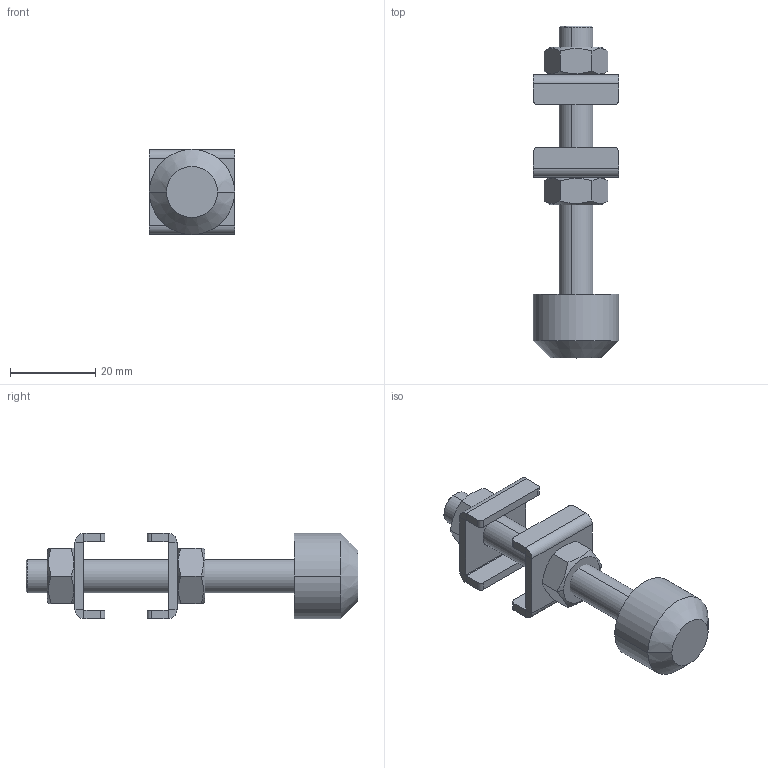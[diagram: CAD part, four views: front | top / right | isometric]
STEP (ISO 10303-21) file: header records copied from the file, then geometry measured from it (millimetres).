
FILE_DESCRIPTION (( 'STEP AP203' ), '1' );
FILE_NAME ('BRP-M8.STEP', '2016-07-25T18:01:57', ( 'Ricardo' ), ( '' ), 'SwSTEP 2.0', 'SolidWorks 2015', '' );
FILE_SCHEMA (( 'CONFIG_CONTROL_DESIGN' ));
Length unit declared in the file: millimetre
Products named in the file (5): 14.10001; 20.20010; BRP-M8; 20.20014; 11.50002
Assembly tree (6 placements, depth 2):
  BRP-M8
    20.20010
    20.20014
    11.50002  x2
    14.10001  x2
Bounding box: 20 x 78 x 20 mm (x, y, z)
Volume: 10845 mm3; surface area: 7255.7 mm2
Topology: 6 solids, 6 shells, 110 faces, 246 edges, 147 vertices
Faces by surface type: plane 56, cylinder 30, cone 24
Entity records: 2415 total; most frequent: CARTESIAN_POINT 418, DIRECTION 326, ORIENTED_EDGE 276, EDGE_CURVE 138, AXIS2_PLACEMENT_3D 127, VERTEX_POINT 83, LINE 72, VECTOR 72
